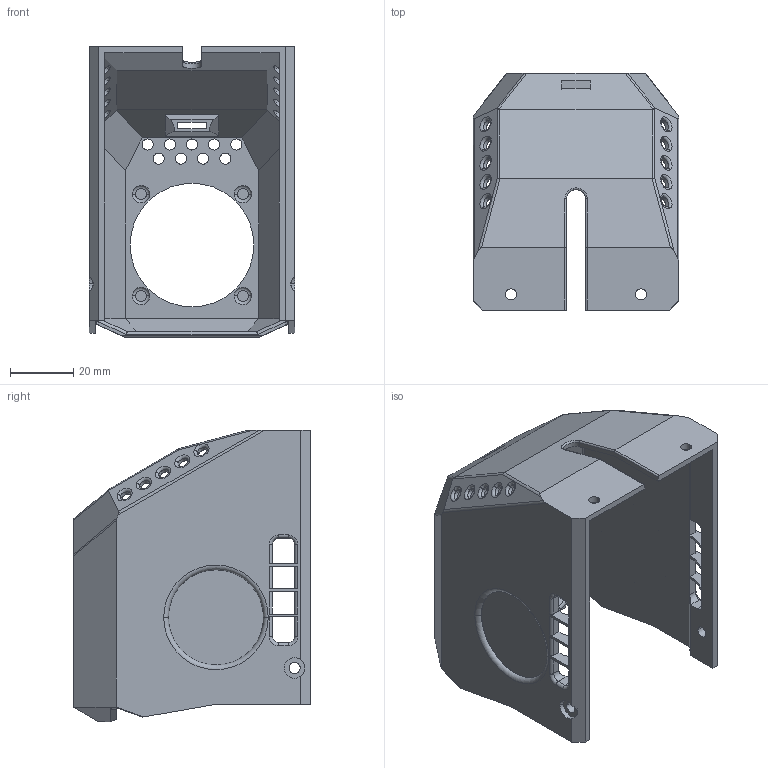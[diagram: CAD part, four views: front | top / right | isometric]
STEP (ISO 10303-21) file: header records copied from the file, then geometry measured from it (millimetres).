
FILE_DESCRIPTION(('CATIA V5 STEP Exchange'),'2;1');
FILE_NAME('C:\Users\Bruno-Win\Desktop\V2.1 Head\HYPERCUBE-EVO-0008_NGEN_V2.1_40.stp','2021-03-26T07:36:13+00:00',('none'),('none'),'CATIA Version 5-6 Release 2017','CATIA V5 STEP AP203','none');
FILE_SCHEMA(('CONFIG_CONTROL_DESIGN'));
Length unit declared in the file: millimetre
Products named in the file (1): HYPERCUBE-EVO-0008_NGEN_V2_40
Bounding box: 65 x 74.72 x 92 mm (x, y, z)
Volume: 37091.9 mm3; surface area: 38745.9 mm2
Topology: 1 solids, 1 shells, 290 faces, 791 edges, 502 vertices
Faces by surface type: plane 117, cylinder 106, torus 60, bspline 7
Entity records: 9748 total; most frequent: CARTESIAN_POINT 2905, ORIENTED_EDGE 1582, DIRECTION 1061, EDGE_CURVE 791, VERTEX_POINT 502, AXIS2_PLACEMENT_3D 452, VECTOR 400, LINE 400
